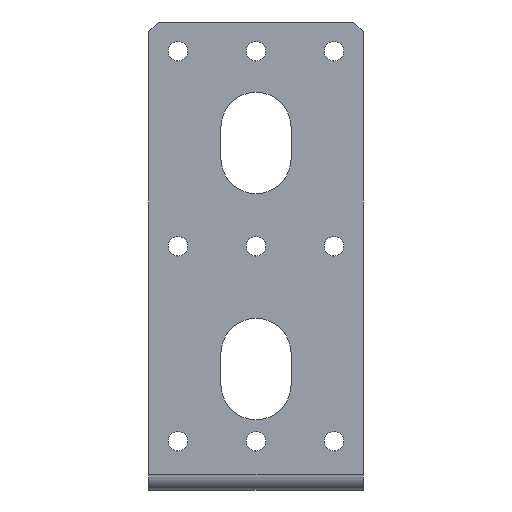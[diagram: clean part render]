
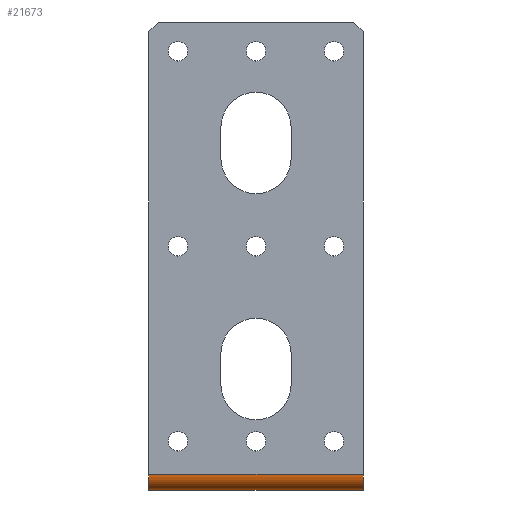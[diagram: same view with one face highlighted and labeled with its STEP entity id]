
A CAD part, front view. The second image highlights one B-rep face of the part: STEP entity #21673.
In plain terms, the highlighted cylindrical face has radius 4 mm (diameter 8 mm), a partial arc.
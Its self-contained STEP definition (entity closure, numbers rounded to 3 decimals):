
#354 = DIRECTION ( 'NONE',  ( 1., 0., 0. ) ) ;
#1362 = EDGE_CURVE ( 'NONE', #27841, #7242, #25102, .T. ) ;
#1456 = CARTESIAN_POINT ( 'NONE',  ( 27.5, -115.397, -59.397 ) ) ;
#1623 = EDGE_CURVE ( 'NONE', #7382, #7242, #22650, .T. ) ;
#4069 = ORIENTED_EDGE ( 'NONE', *, *, #25975, .T. ) ;
#4167 = ORIENTED_EDGE ( 'NONE', *, *, #1623, .T. ) ;
#5175 = DIRECTION ( 'NONE',  ( -1., 0., 0. ) ) ;
#5873 = AXIS2_PLACEMENT_3D ( 'NONE', #13532, #354, #15486 ) ;
#6513 = ORIENTED_EDGE ( 'NONE', *, *, #1362, .F. ) ;
#7242 = VERTEX_POINT ( 'NONE', #11711 ) ;
#7382 = VERTEX_POINT ( 'NONE', #14303 ) ;
#8054 = AXIS2_PLACEMENT_3D ( 'NONE', #25942, #15547, #11000 ) ;
#11000 = DIRECTION ( 'NONE',  ( 0., -1., 0. ) ) ;
#11711 = CARTESIAN_POINT ( 'NONE',  ( -27.5, -115.397, -59.397 ) ) ;
#13532 = CARTESIAN_POINT ( 'NONE',  ( -27.5, -115.397, -55.397 ) ) ;
#14303 = CARTESIAN_POINT ( 'NONE',  ( -27.5, -119.397, -55.397 ) ) ;
#14332 = CIRCLE ( 'NONE', #8054, 4. ) ;
#15132 = CYLINDRICAL_SURFACE ( 'NONE', #20138, 4. ) ;
#15486 = DIRECTION ( 'NONE',  ( 0., -1., 0. ) ) ;
#15524 = VECTOR ( 'NONE', #5175, 1000. ) ;
#15547 = DIRECTION ( 'NONE',  ( -1., 0., 0. ) ) ;
#15720 = CARTESIAN_POINT ( 'NONE',  ( 27.5, -119.397, -55.397 ) ) ;
#16555 = VERTEX_POINT ( 'NONE', #15720 ) ;
#17073 = DIRECTION ( 'NONE',  ( 1., 0., 0. ) ) ;
#17397 = CARTESIAN_POINT ( 'NONE',  ( 27.5, -115.397, -59.397 ) ) ;
#18857 = VECTOR ( 'NONE', #23873, 1000. ) ;
#19945 = EDGE_CURVE ( 'NONE', #16555, #7382, #28299, .T. ) ;
#20138 = AXIS2_PLACEMENT_3D ( 'NONE', #24020, #17073, #23832 ) ;
#21673 = ADVANCED_FACE ( 'NONE', ( #24093 ), #15132, .T. ) ;
#22650 = CIRCLE ( 'NONE', #5873, 4. ) ;
#22898 = EDGE_LOOP ( 'NONE', ( #28615, #4167, #6513, #4069 ) ) ;
#23832 = DIRECTION ( 'NONE',  ( 0., -1., 0. ) ) ;
#23873 = DIRECTION ( 'NONE',  ( -1., 0., 0. ) ) ;
#24020 = CARTESIAN_POINT ( 'NONE',  ( 0., -115.397, -55.397 ) ) ;
#24093 = FACE_OUTER_BOUND ( 'NONE', #22898, .T. ) ;
#25102 = LINE ( 'NONE', #17397, #18857 ) ;
#25942 = CARTESIAN_POINT ( 'NONE',  ( 27.5, -115.397, -55.397 ) ) ;
#25975 = EDGE_CURVE ( 'NONE', #27841, #16555, #14332, .T. ) ;
#27381 = CARTESIAN_POINT ( 'NONE',  ( 0., -119.397, -55.397 ) ) ;
#27841 = VERTEX_POINT ( 'NONE', #1456 ) ;
#28299 = LINE ( 'NONE', #27381, #15524 ) ;
#28615 = ORIENTED_EDGE ( 'NONE', *, *, #19945, .T. ) ;
